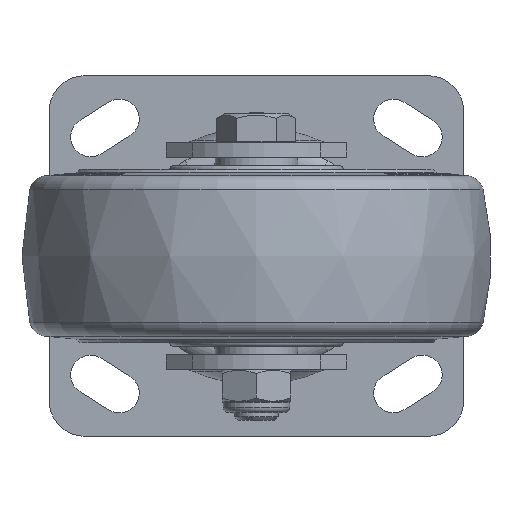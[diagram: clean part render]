
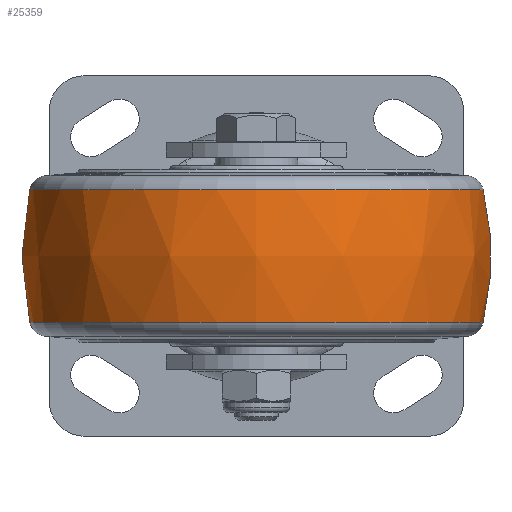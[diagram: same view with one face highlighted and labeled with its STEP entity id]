
A CAD part, front view. The second image highlights one B-rep face of the part: STEP entity #25359.
In plain terms, the highlighted free-form (B-spline) face has degree [2, 2] with [3, 9] control points.
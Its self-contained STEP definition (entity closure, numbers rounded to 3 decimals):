
#23=(
BOUNDED_SURFACE()
B_SPLINE_SURFACE(2,2,((#46524,#46525,#46526,#46527,#46528,#46529,#46530,
#46531,#46532),(#46533,#46534,#46535,#46536,#46537,#46538,#46539,#46540,
#46541),(#46542,#46543,#46544,#46545,#46546,#46547,#46548,#46549,#46550)),
 .UNSPECIFIED.,.F.,.T.,.F.)
B_SPLINE_SURFACE_WITH_KNOTS((3,3),(3,2,2,2,3),(-0.233,0.233),
(-3.142,-1.571,0.,1.571,3.142),
 .UNSPECIFIED.)
GEOMETRIC_REPRESENTATION_ITEM()
RATIONAL_B_SPLINE_SURFACE(((1.,0.707,1.,0.707,1.,
0.707,1.,0.707,1.),(0.973,0.688,
0.973,0.688,0.973,0.688,
0.973,0.688,0.973),(1.,0.707,
1.,0.707,1.,0.707,1.,0.707,1.)))
REPRESENTATION_ITEM('')
SURFACE()
);
#4289=FACE_OUTER_BOUND('',#5929,.T.);
#5929=EDGE_LOOP('',(#22122,#22123,#22124,#22125));
#9691=CIRCLE('',#26685,62.847);
#9692=CIRCLE('',#26686,62.847);
#9693=CIRCLE('',#26687,80.);
#12054=VERTEX_POINT('',#46521);
#12055=VERTEX_POINT('',#46551);
#15441=EDGE_CURVE('',#12054,#12054,#9691,.T.);
#15442=EDGE_CURVE('',#12055,#12055,#9692,.T.);
#15443=EDGE_CURVE('',#12055,#12054,#9693,.T.);
#22122=ORIENTED_EDGE('',*,*,#15442,.F.);
#22123=ORIENTED_EDGE('',*,*,#15443,.T.);
#22124=ORIENTED_EDGE('',*,*,#15441,.F.);
#22125=ORIENTED_EDGE('',*,*,#15443,.F.);
#25359=ADVANCED_FACE('',(#4289),#23,.F.);
#26685=AXIS2_PLACEMENT_3D('',#46523,#30477,#30478);
#26686=AXIS2_PLACEMENT_3D('',#46552,#30479,#30480);
#26687=AXIS2_PLACEMENT_3D('',#46553,#30481,#30482);
#30477=DIRECTION('center_axis',(0.,0.,
-1.));
#30478=DIRECTION('ref_axis',(-1.,0.,0.));
#30479=DIRECTION('center_axis',(0.,0.,
1.));
#30480=DIRECTION('ref_axis',(-1.,0.,0.));
#30481=DIRECTION('center_axis',(0.,1.,0.));
#30482=DIRECTION('ref_axis',(1.,0.,0.));
#46521=CARTESIAN_POINT('',(62.847,-106.,-18.435));
#46523=CARTESIAN_POINT('Origin',(0.,-106.,-18.435));
#46524=CARTESIAN_POINT('Ctrl Pts',(62.847,-106.,18.435));
#46525=CARTESIAN_POINT('Ctrl Pts',(62.847,-168.847,18.435));
#46526=CARTESIAN_POINT('Ctrl Pts',(0.,-168.847,
18.435));
#46527=CARTESIAN_POINT('Ctrl Pts',(-62.847,-168.847,
18.435));
#46528=CARTESIAN_POINT('Ctrl Pts',(-62.847,-106.,18.435));
#46529=CARTESIAN_POINT('Ctrl Pts',(-62.847,-43.153,
18.435));
#46530=CARTESIAN_POINT('Ctrl Pts',(0.,-43.153,
18.435));
#46531=CARTESIAN_POINT('Ctrl Pts',(62.847,-43.153,18.435));
#46532=CARTESIAN_POINT('Ctrl Pts',(62.847,-106.,18.435));
#46533=CARTESIAN_POINT('Ctrl Pts',(67.213,-106.,0.));
#46534=CARTESIAN_POINT('Ctrl Pts',(67.213,-173.213,0.));
#46535=CARTESIAN_POINT('Ctrl Pts',(0.,-173.213,
0.));
#46536=CARTESIAN_POINT('Ctrl Pts',(-67.213,-173.213,
0.));
#46537=CARTESIAN_POINT('Ctrl Pts',(-67.213,-106.,0.));
#46538=CARTESIAN_POINT('Ctrl Pts',(-67.213,-38.787,
0.));
#46539=CARTESIAN_POINT('Ctrl Pts',(0.,-38.787,
0.));
#46540=CARTESIAN_POINT('Ctrl Pts',(67.213,-38.787,0.));
#46541=CARTESIAN_POINT('Ctrl Pts',(67.213,-106.,0.));
#46542=CARTESIAN_POINT('Ctrl Pts',(62.847,-106.,-18.435));
#46543=CARTESIAN_POINT('Ctrl Pts',(62.847,-168.847,-18.435));
#46544=CARTESIAN_POINT('Ctrl Pts',(0.,-168.847,
-18.435));
#46545=CARTESIAN_POINT('Ctrl Pts',(-62.847,-168.847,
-18.435));
#46546=CARTESIAN_POINT('Ctrl Pts',(-62.847,-106.,-18.435));
#46547=CARTESIAN_POINT('Ctrl Pts',(-62.847,-43.153,
-18.435));
#46548=CARTESIAN_POINT('Ctrl Pts',(0.,-43.153,
-18.435));
#46549=CARTESIAN_POINT('Ctrl Pts',(62.847,-43.153,-18.435));
#46550=CARTESIAN_POINT('Ctrl Pts',(62.847,-106.,-18.435));
#46551=CARTESIAN_POINT('',(62.847,-106.,18.435));
#46552=CARTESIAN_POINT('Origin',(0.,-106.,18.435));
#46553=CARTESIAN_POINT('Origin',(-15.,-106.,0.));
